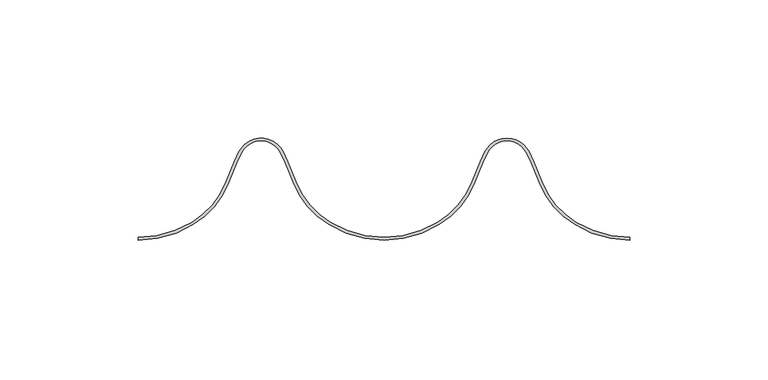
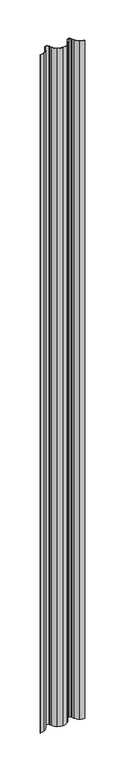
"""IFC4 building model written with IfcOpenShell, lengths in millimetres: plate geometry, Regolare Vertical 178 : Regolare Vertical 178."""

import ifcopenshell
import ifcopenshell.guid

model = None  # the IFC model being written
_history = None  # IfcOwnerHistory: only IFC2X3 demands one
_inside = {}  # id of a spatial element -> (the spatial element, [elements in it])
_under = {}  # id of a project, library or spatial element -> (it, [spatial elements below it])
_declared = {}  # id of a project -> (the project, [libraries it declares])
_typed = {}  # id of a type object -> (the type object, [elements of that type])
_made_of = {}  # id of a material, layer set ... -> (it, [elements and type objects made of it])


def new_model(schema):
    """Start an empty IFC model of exactly this schema.

    Asked for "IFC4X3", IfcOpenShell would pick the latest addendum, in which some entities
    have other attributes; the version numbers below select the first issue.
    IFC2X3 requires an IfcOwnerHistory on every rooted entity: one is made here for all.
    """
    global model, _history
    if schema == "IFC4X3":
        model = ifcopenshell.file(schema_version=(4, 3, 0, 0))
    else:
        model = ifcopenshell.file(schema=schema)
    _inside.clear()
    _under.clear()
    _declared.clear()
    _typed.clear()
    _made_of.clear()
    _history = None
    if model.schema == "IFC2X3":
        org = make("IfcOrganization", Name="unknown")
        user = make(
            "IfcPersonAndOrganization",
            ThePerson=make("IfcPerson", FamilyName="unknown"),
            TheOrganization=org,
        )
        app = make(
            "IfcApplication",
            ApplicationDeveloper=org,
            Version="unknown",
            ApplicationFullName="unknown",
            ApplicationIdentifier="unknown",
        )
        _history = make(
            "IfcOwnerHistory",
            OwningUser=user,
            OwningApplication=app,
            ChangeAction="ADDED",
            CreationDate=0,
        )
    return model


def make(cls, **values):
    """One entity of the class cls with the attributes given. An attribute that is None is left unset."""
    return model.create_entity(
        cls, **{name: value for name, value in values.items() if value is not None}
    )


def rooted(cls, **values):
    """An entity with a GlobalId (a new one), such as an element, a storey or a relation."""
    return make(cls, GlobalId=ifcopenshell.guid.new(), OwnerHistory=_history, **values)


def si_unit(unit_type, name, prefix=None):
    """IfcSIUnit, for example si_unit("LENGTHUNIT", "METRE", prefix="MILLI")."""
    return make("IfcSIUnit", UnitType=unit_type, Prefix=prefix, Name=name)


def assignment(units):
    """IfcUnitAssignment: the units of a project."""
    return None if units is None else make("IfcUnitAssignment", Units=units)


def point(xyz):
    """IfcCartesianPoint."""
    return None if xyz is None else make("IfcCartesianPoint", Coordinates=xyz)


def direction(xyz):
    """IfcDirection."""
    return None if xyz is None else make("IfcDirection", DirectionRatios=xyz)


def frame(location, z_axis=None, x_axis=None):
    """IfcAxis2Placement3D, a coordinate frame: its origin and axes. An axis left out is left unset."""
    return make(
        "IfcAxis2Placement3D",
        Location=point(location),
        Axis=direction(z_axis),
        RefDirection=direction(x_axis),
    )


def frame_2d(location, x_axis=None):
    """IfcAxis2Placement2D, a coordinate frame in the plane: its origin and x axis."""
    return make(
        "IfcAxis2Placement2D", Location=point(location), RefDirection=direction(x_axis)
    )


def origin():
    """The frame at (0, 0, 0) with its axes left unset."""
    return frame((0.0, 0.0, 0.0))


def origin_with_axes():
    """The frame at (0, 0, 0) with the z axis (0, 0, 1) and the x axis (1, 0, 0) written out."""
    return frame((0.0, 0.0, 0.0), z_axis=(0.0, 0.0, 1.0), x_axis=(1.0, 0.0, 0.0))


def place(relative_to, where):
    """IfcLocalPlacement: puts the frame where relative to a parent placement (None: the world)."""
    return make(
        "IfcLocalPlacement", PlacementRelTo=relative_to, RelativePlacement=where
    )


def context(
    kind, dimensions, precision=None, world=None, true_north=None, identifier=None
):
    """IfcGeometricRepresentationContext, for example the 3D "Model" context."""
    return make(
        "IfcGeometricRepresentationContext",
        ContextIdentifier=identifier,
        ContextType=kind,
        CoordinateSpaceDimension=dimensions,
        Precision=precision,
        WorldCoordinateSystem=world,
        TrueNorth=true_north,
    )


def project(units=None, contexts=None):
    """IfcProject with its units and contexts."""
    return rooted(
        "IfcProject",
        Name="project",
        RepresentationContexts=contexts,
        UnitsInContext=assignment(units),
    )


def spatial(cls, under=None, at=None, **own):
    """A site, building, storey or space (cls), placed at a placement, below another one or the project."""
    s = rooted(cls, ObjectPlacement=at, **own)
    if under is not None:
        _under.setdefault(under.id(), (under, []))[1].append(s)
    return s


def polyline(points):
    """IfcPolyline through the points."""
    return make("IfcPolyline", Points=[point(p) for p in points])


def circle_curve(where, radius):
    """IfcCircle in the frame where."""
    return make("IfcCircle", Position=where, Radius=radius)


def trimmed(basis, trim1, trim2, sense, master):
    """IfcTrimmedCurve: the piece of a basis curve between two trims."""
    return make(
        "IfcTrimmedCurve",
        BasisCurve=basis,
        Trim1=trim1,
        Trim2=trim2,
        SenseAgreement=sense,
        MasterRepresentation=master,
    )


def segment(curve, same_sense, transition):
    """IfcCompositeCurveSegment."""
    return make(
        "IfcCompositeCurveSegment",
        Transition=transition,
        SameSense=same_sense,
        ParentCurve=curve,
    )


def composite_curve(segments, self_intersect=None):
    """IfcCompositeCurve: segments joined end to end."""
    return make("IfcCompositeCurve", Segments=segments, SelfIntersect=self_intersect)


def outline(outer, holes=None, kind="AREA"):
    """IfcArbitraryClosedProfileDef: a profile drawn as a closed curve; with holes, ...WithVoids."""
    if holes is None:
        return make("IfcArbitraryClosedProfileDef", ProfileType=kind, OuterCurve=outer)
    return make(
        "IfcArbitraryProfileDefWithVoids",
        ProfileType=kind,
        OuterCurve=outer,
        InnerCurves=holes,
    )


def extrude(swept, where, along, depth):
    """IfcExtrudedAreaSolid: the profile swept, set in the frame where, extruded along a direction by depth."""
    return make(
        "IfcExtrudedAreaSolid",
        SweptArea=swept,
        Position=where,
        ExtrudedDirection=direction(along),
        Depth=depth,
    )


def shape(context_of_items, identifier, shape_type, items):
    """IfcShapeRepresentation: the items that make up one representation, for example the "Body"."""
    return make(
        "IfcShapeRepresentation",
        ContextOfItems=context_of_items,
        RepresentationIdentifier=identifier,
        RepresentationType=shape_type,
        Items=items,
    )


def source(mapping_origin, context_of_items, identifier, shape_type, items):
    """IfcRepresentationMap: a shape defined once, which mapped items show again and again."""
    return make(
        "IfcRepresentationMap",
        MappingOrigin=mapping_origin,
        MappedRepresentation=shape(context_of_items, identifier, shape_type, items),
    )


def transform(
    local_origin,
    x_axis=None,
    y_axis=None,
    z_axis=None,
    scale=None,
    scale2=None,
    scale3=None,
    uniform=True,
):
    """IfcCartesianTransformationOperator3D, or its non-uniform kind. x_axis, y_axis, z_axis: its Axis1, 2, 3."""
    if uniform:
        return make(
            "IfcCartesianTransformationOperator3D",
            Axis1=direction(x_axis),
            Axis2=direction(y_axis),
            LocalOrigin=point(local_origin),
            Scale=scale,
            Axis3=direction(z_axis),
        )
    return make(
        "IfcCartesianTransformationOperator3DnonUniform",
        Axis1=direction(x_axis),
        Axis2=direction(y_axis),
        LocalOrigin=point(local_origin),
        Scale=scale,
        Axis3=direction(z_axis),
        Scale2=scale2,
        Scale3=scale3,
    )


def mapped(mapping_source, mapping_target):
    """IfcMappedItem: shows the shape of a source again, moved by a transform."""
    return make(
        "IfcMappedItem", MappingSource=mapping_source, MappingTarget=mapping_target
    )


def made_of(thing, what):
    """Note that an element or type object is made of a material, layer set ...; save() writes the relation."""
    if what is not None:
        _made_of.setdefault(what.id(), (what, []))[1].append(thing)
    return thing


def element(
    cls,
    number,
    at=None,
    inside=None,
    cuts=None,
    type_object=None,
    material=None,
    context=None,
    identifier="Body",
    shape_type=None,
    held_by="IfcProductDefinitionShape",
    body=None,
    shapes=None,
    **own,
):
    """One element of the class cls, such as IfcWall. Its Tag is "e" and its number.

    at: its placement. inside: the storey or other place that contains it. cuts: it is an
    opening in that element (IfcRelVoidsElement). A single representation is given by context,
    identifier, shape_type and body (its items); several are given by shapes. held_by: the class
    of the entity that holds the representations. save() writes the other relations.
    """
    e = rooted(cls, Tag="e%d" % number, ObjectPlacement=at, **own)
    if body is not None:
        shapes = [shape(context, identifier, shape_type, body)]
    if shapes is not None:
        e.Representation = make(held_by, Representations=shapes)
    if inside is not None:
        _inside.setdefault(inside.id(), (inside, []))[1].append(e)
    if cuts is not None:
        rooted(
            "IfcRelVoidsElement", RelatingBuildingElement=cuts, RelatedOpeningElement=e
        )
    if type_object is not None:
        _typed.setdefault(type_object.id(), (type_object, []))[1].append(e)
    return made_of(e, material)


def aggregate(whole, parts):
    """IfcRelAggregates: a whole, such as a stair, and the parts it consists of."""
    return rooted("IfcRelAggregates", RelatingObject=whole, RelatedObjects=parts)


def save(model, path):
    """Write the relations noted so far, then the file.

    IfcRelAggregates (storeys below a building ...), IfcRelContainedInSpatialStructure (elements
    in a storey), IfcRelDefinesByType, IfcRelAssociatesMaterial and IfcRelDeclares: one each for
    every whole, place, type object, material and project.
    """
    for whole, parts in _under.values():
        aggregate(whole, parts)
    for where, things in _inside.values():
        rooted(
            "IfcRelContainedInSpatialStructure",
            RelatedElements=things,
            RelatingStructure=where,
        )
    for kind, things in _typed.values():
        rooted("IfcRelDefinesByType", RelatedObjects=things, RelatingType=kind)
    for what, things in _made_of.values():
        rooted("IfcRelAssociatesMaterial", RelatedObjects=things, RelatingMaterial=what)
    for by, libraries in _declared.values():
        rooted("IfcRelDeclares", RelatingContext=by, RelatedDefinitions=libraries)
    model.write(path)


def plate_2df18c28(model_context):
    return source(origin(), model_context, "Body", "SweptSolid", [
        extrude(outline(composite_curve([segment(trimmed(circle_curve(frame_2d((89.0514891, 38.4503244)), 37.4503244), [point((69.5107389, 6.5021495))], [point((89.0514891, 1.0))], True, "CARTESIAN"), True, "CONTINUOUS"), segment(polyline([(89.0514891, 1.0), (89.0514891, 0.0)]), True, "CONTINUOUS"), segment(trimmed(circle_curve(frame_2d((89.0514891, 38.4503244)), 38.4503244), [point((89.0514891, 0.0))], [point((68.9889611, 5.6490681))], False, "CARTESIAN"), True, "CONTINUOUS"), segment(trimmed(circle_curve(frame_2d((85.4858438, 32.6206681)), 31.6166783), [point((68.9889611, 5.6490681))], [point((56.1303596, 20.878867))], False, "CARTESIAN"), True, "CONTINUOUS"), segment(polyline([(56.1303596, 20.878867), (53.2611379, 28.0423924), (51.6147842, 31.4771017)]), True, "CONTINUOUS"), segment(trimmed(circle_curve(frame_2d((44.5257445, 28.0791236)), 7.8613445), [point((51.6147842, 31.4771017))], [point((44.5257445, 35.9404682))], True, "CARTESIAN"), True, "CONTINUOUS"), segment(trimmed(circle_curve(frame_2d((44.5257445, 28.0791236)), 7.8613445), [point((44.5257445, 35.9404682))], [point((37.4367049, 31.4771017))], True, "CARTESIAN"), True, "CONTINUOUS"), segment(polyline([(37.4367049, 31.4771017), (35.7903512, 28.0423924), (32.9211295, 20.878867)]), True, "CONTINUOUS"), segment(trimmed(circle_curve(frame_2d((3.5656452, 32.6206681)), 31.6166783), [point((32.9211295, 20.878867))], [point((20.062528, 5.6490681))], False, "CARTESIAN"), True, "CONTINUOUS"), segment(trimmed(circle_curve(frame_2d((0.0, 38.4503244)), 38.4503244), [point((20.062528, 5.6490681))], [point((0.0, 0.0))], False, "CARTESIAN"), True, "CONTINUOUS"), segment(trimmed(circle_curve(frame_2d((0.0, 38.4503244)), 38.4503244), [point((0.0, 0.0))], [point((-20.062528, 5.6490681))], False, "CARTESIAN"), True, "CONTINUOUS"), segment(trimmed(circle_curve(frame_2d((-3.5656452, 32.6206681)), 31.6166783), [point((-20.062528, 5.6490681))], [point((-32.9211295, 20.878867))], False, "CARTESIAN"), True, "CONTINUOUS"), segment(polyline([(-32.9211295, 20.878867), (-35.7903512, 28.0423924), (-37.4367049, 31.4771017)]), True, "CONTINUOUS"), segment(trimmed(circle_curve(frame_2d((-44.5257445, 28.0791236)), 7.8613445), [point((-37.4367049, 31.4771017))], [point((-51.6147842, 31.4771017))], True, "CARTESIAN"), True, "CONTINUOUS"), segment(polyline([(-51.6147842, 31.4771017), (-53.2611379, 28.0423924), (-56.1303596, 20.878867)]), True, "CONTINUOUS"), segment(trimmed(circle_curve(frame_2d((-85.4858438, 32.6206681)), 31.6166783), [point((-56.1303596, 20.878867))], [point((-68.9889611, 5.6490681))], False, "CARTESIAN"), True, "CONTINUOUS"), segment(trimmed(circle_curve(frame_2d((-89.0514891, 38.4503244)), 38.4503244), [point((-68.9889611, 5.6490681))], [point((-89.0514891, 0.0))], False, "CARTESIAN"), True, "CONTINUOUS"), segment(polyline([(-89.0514891, 0.0), (-89.0514891, 1.0)]), True, "CONTINUOUS"), segment(trimmed(circle_curve(frame_2d((-89.0514891, 38.4503244)), 37.4503244), [point((-89.0514891, 1.0))], [point((-69.5107389, 6.5021495))], True, "CARTESIAN"), True, "CONTINUOUS"), segment(trimmed(circle_curve(frame_2d((-85.4858438, 32.6206681)), 30.6166783), [point((-69.5107389, 6.5021495))], [point((-57.058754, 21.2504634))], True, "CARTESIAN"), True, "CONTINUOUS"), segment(polyline([(-57.058754, 21.2504634), (-54.1771681, 28.4448583), (-52.5165434, 31.9093405)]), True, "CONTINUOUS"), segment(trimmed(circle_curve(frame_2d((-44.5257445, 28.0791236)), 8.8613445), [point((-52.5165434, 31.9093405))], [point((-36.5349457, 31.9093405))], False, "CARTESIAN"), True, "CONTINUOUS"), segment(polyline([(-36.5349457, 31.9093405), (-34.874321, 28.4448583), (-31.9927351, 21.2504634)]), True, "CONTINUOUS"), segment(trimmed(circle_curve(frame_2d((-3.5656452, 32.6206681)), 30.6166783), [point((-31.9927351, 21.2504634))], [point((-19.5407501, 6.5021495))], True, "CARTESIAN"), True, "CONTINUOUS"), segment(trimmed(circle_curve(frame_2d((0.0, 38.4503244)), 37.4503244), [point((-19.5407501, 6.5021495))], [point((0.0, 1.0))], True, "CARTESIAN"), True, "CONTINUOUS"), segment(trimmed(circle_curve(frame_2d((0.0, 38.4503244)), 37.4503244), [point((0.0, 1.0))], [point((19.5407501, 6.5021495))], True, "CARTESIAN"), True, "CONTINUOUS"), segment(trimmed(circle_curve(frame_2d((3.5656452, 32.6206681)), 30.6166783), [point((19.5407501, 6.5021495))], [point((31.9927351, 21.2504634))], True, "CARTESIAN"), True, "CONTINUOUS"), segment(polyline([(31.9927351, 21.2504634), (34.874321, 28.4448583), (36.5349457, 31.9093405)]), True, "CONTINUOUS"), segment(trimmed(circle_curve(frame_2d((44.5257445, 28.0791236)), 8.8613445), [point((36.5349457, 31.9093405))], [point((44.5257445, 36.9404682))], False, "CARTESIAN"), True, "CONTINUOUS"), segment(trimmed(circle_curve(frame_2d((44.5257445, 28.0791236)), 8.8613445), [point((44.5257445, 36.9404682))], [point((52.5165434, 31.9093405))], False, "CARTESIAN"), True, "CONTINUOUS"), segment(polyline([(52.5165434, 31.9093405), (54.1771681, 28.4448583), (57.058754, 21.2504634)]), True, "CONTINUOUS"), segment(trimmed(circle_curve(frame_2d((85.4858438, 32.6206681)), 30.6166783), [point((57.058754, 21.2504634))], [point((69.5107389, 6.5021495))], True, "CARTESIAN"), True, "CONTINUOUS")], self_intersect=False)), origin_with_axes(), (0.0, 0.0, 1.0), 2859.2009216),
    ])


if __name__ == "__main__":
    model = new_model("IFC4")
    model_context = context("Model", 3, world=origin())
    ifc_project = project(units=[si_unit("LENGTHUNIT", "METRE", prefix="MILLI")], contexts=[model_context])
    site = spatial("IfcSite", under=ifc_project)
    building = spatial("IfcBuilding", under=site)
    placement = place(None, origin())
    plate_shape = plate_2df18c28(model_context)
    element("IfcPlate", 1, ObjectType="Regolare Vertical 178 : Regolare Vertical 178", at=placement, inside=building, context=model_context, shape_type="MappedRepresentation", body=[
        mapped(plate_shape, transform((0.0, 0.0, 0.0), x_axis=(1.0, 0.0, 0.0), y_axis=(0.0, 1.0, 0.0), z_axis=(0.0, 0.0, 1.0))),
    ])
    save(model, "model.ifc")
